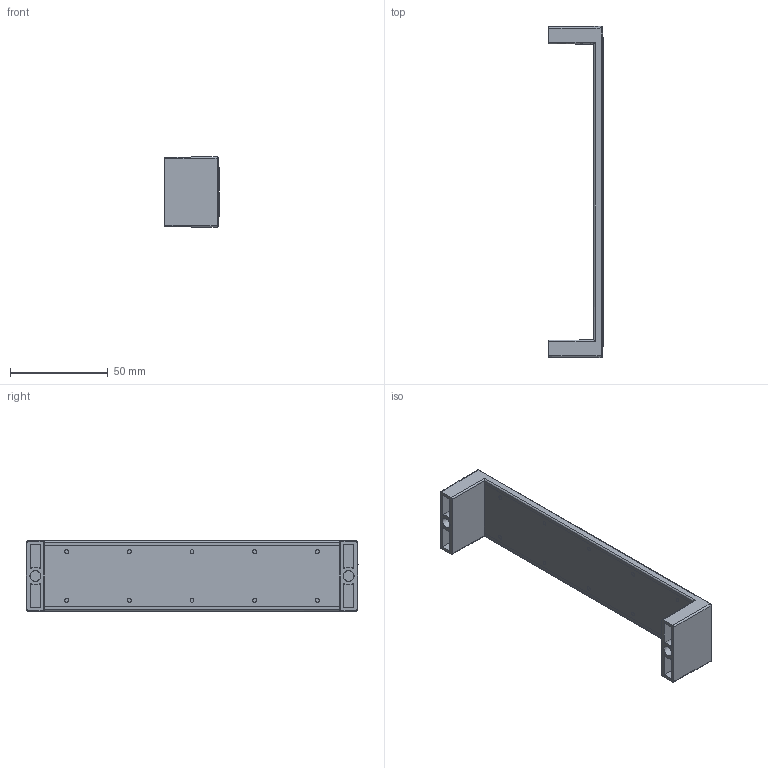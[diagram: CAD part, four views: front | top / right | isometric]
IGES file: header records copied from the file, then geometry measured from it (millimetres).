
Start section: C
Global section: file name: 8223-169.igs; native system: By Siemens PLM Incorporated; preprocessor: XPlus GENERIC/IGES 16.0.42; author: Author; organization: Title; date: 20231115.085050; units: millimetre
Bounding box: 27.92 x 169.56 x 35.98 mm (x, y, z)
Surface area: 29960.5 mm2 (no closed solid volume)
Topology: 0 solids, 0 shells, 260 faces, 1410 edges, 1402 vertices
Faces by surface type: bspline 260
